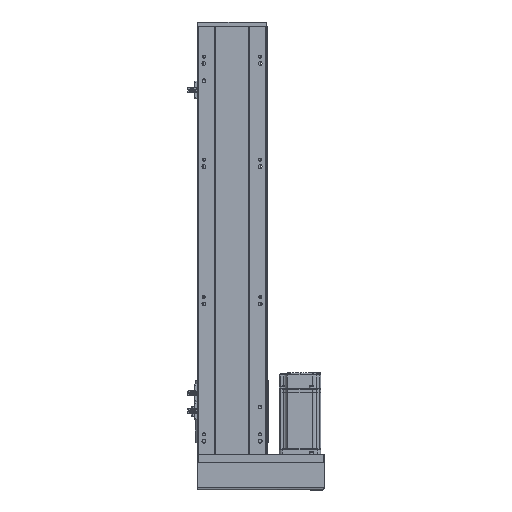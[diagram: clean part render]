
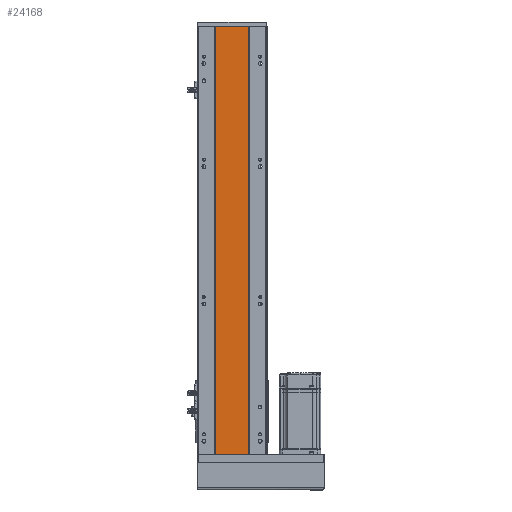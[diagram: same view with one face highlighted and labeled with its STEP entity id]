
A CAD part, front view. The second image highlights one B-rep face of the part: STEP entity #24168.
In plain terms, the highlighted planar face has unit normal (0, -1, 0).
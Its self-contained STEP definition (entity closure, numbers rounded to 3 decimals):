
#2720 = CARTESIAN_POINT ( 'NONE',  ( 1579.351, 60.479, -623.5 ) ) ;
#2884 = FACE_OUTER_BOUND ( 'NONE', #10193, .T. ) ;
#3390 = LINE ( 'NONE', #11113, #30851 ) ;
#3652 = EDGE_CURVE ( 'NONE', #19327, #6189, #3390, .T. ) ;
#3711 = LINE ( 'NONE', #16770, #7558 ) ;
#3749 = DIRECTION ( 'NONE',  ( 1., 0., 0. ) ) ;
#4309 = EDGE_CURVE ( 'NONE', #20854, #6189, #8835, .T. ) ;
#4365 = CARTESIAN_POINT ( 'NONE',  ( 1628.351, 60.479, -623.5 ) ) ;
#4925 = VERTEX_POINT ( 'NONE', #20831 ) ;
#6189 = VERTEX_POINT ( 'NONE', #27202 ) ;
#7558 = VECTOR ( 'NONE', #27297, 1000. ) ;
#8624 = ORIENTED_EDGE ( 'NONE', *, *, #3652, .T. ) ;
#8835 = LINE ( 'NONE', #19337, #9220 ) ;
#9180 = DIRECTION ( 'NONE',  ( 1., 0., 0. ) ) ;
#9220 = VECTOR ( 'NONE', #9180, 1000. ) ;
#10193 = EDGE_LOOP ( 'NONE', ( #30495, #18135, #15809, #8624 ) ) ;
#11113 = CARTESIAN_POINT ( 'NONE',  ( 1628.351, 60.479, -623.5 ) ) ;
#11713 = EDGE_CURVE ( 'NONE', #4925, #19327, #19892, .T. ) ;
#13867 = DIRECTION ( 'NONE',  ( 0., 0., 1. ) ) ;
#15351 = AXIS2_PLACEMENT_3D ( 'NONE', #2720, #34090, #21636 ) ;
#15809 = ORIENTED_EDGE ( 'NONE', *, *, #11713, .T. ) ;
#16255 = VECTOR ( 'NONE', #3749, 1000. ) ;
#16770 = CARTESIAN_POINT ( 'NONE',  ( 1579.351, 60.479, -623.5 ) ) ;
#18135 = ORIENTED_EDGE ( 'NONE', *, *, #33140, .F. ) ;
#19327 = VERTEX_POINT ( 'NONE', #4365 ) ;
#19337 = CARTESIAN_POINT ( 'NONE',  ( 1579.351, 60.479, 0. ) ) ;
#19892 = LINE ( 'NONE', #30441, #16255 ) ;
#20831 = CARTESIAN_POINT ( 'NONE',  ( 1579.351, 60.479, -623.5 ) ) ;
#20854 = VERTEX_POINT ( 'NONE', #29957 ) ;
#21636 = DIRECTION ( 'NONE',  ( 0., 0., -1. ) ) ;
#24168 = ADVANCED_FACE ( 'NONE', ( #2884 ), #26318, .T. ) ;
#26318 = PLANE ( 'NONE',  #15351 ) ;
#27202 = CARTESIAN_POINT ( 'NONE',  ( 1628.351, 60.479, 0. ) ) ;
#27297 = DIRECTION ( 'NONE',  ( 0., 0., 1. ) ) ;
#29957 = CARTESIAN_POINT ( 'NONE',  ( 1579.351, 60.479, 0. ) ) ;
#30441 = CARTESIAN_POINT ( 'NONE',  ( 1579.351, 60.479, -623.5 ) ) ;
#30495 = ORIENTED_EDGE ( 'NONE', *, *, #4309, .F. ) ;
#30851 = VECTOR ( 'NONE', #13867, 1000. ) ;
#33140 = EDGE_CURVE ( 'NONE', #4925, #20854, #3711, .T. ) ;
#34090 = DIRECTION ( 'NONE',  ( 0., -1., 0. ) ) ;
